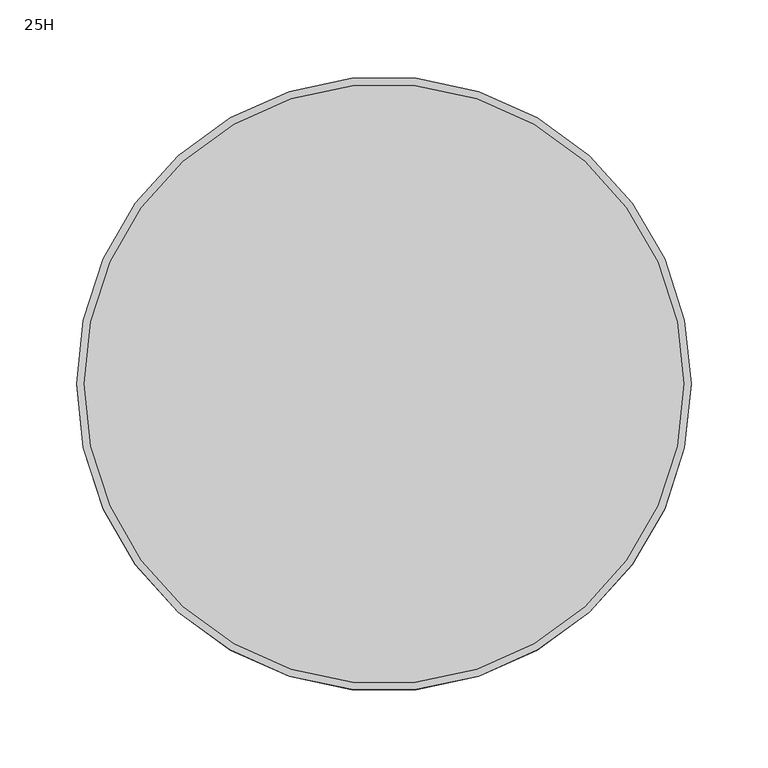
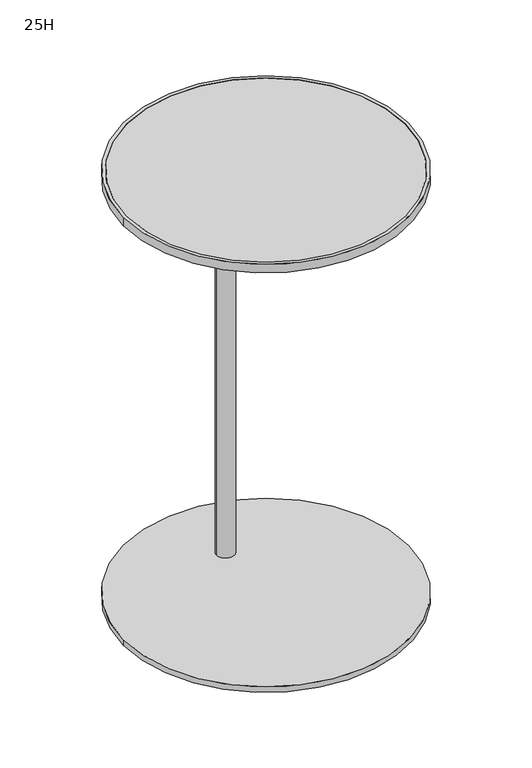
"""IFC4 building model written with IfcOpenShell, lengths in millimetres: furniture geometry, Steelcase Coalesse - Await - Table - Freestanding : 25H."""

from ifc_helpers import new_model, si_unit, point, frame, frame_2d, origin, origin_with_axes, place, context, project, spatial, circle_curve, trimmed, segment, composite_curve, outline, extrude, source, transform, mapped, element, save


def furniture_25h_4a59d33d(model_context):
    return source(origin(), model_context, "Body", "SweptSolid", [
        extrude(outline(composite_curve([segment(trimmed(circle_curve(frame_2d((-416.4141121, 164.7248707)), 200.025), [point((-216.3891121, 164.7248707))], [point((-616.4391121, 164.7248707))], False, "CARTESIAN"), True, "CONTINUOUS"), segment(trimmed(circle_curve(frame_2d((-416.4141121, 164.7248707)), 200.025), [point((-616.4391121, 164.7248707))], [point((-216.3891121, 164.7248707))], False, "CARTESIAN"), True, "CONTINUOUS")], self_intersect=False), holes=[composite_curve([segment(trimmed(circle_curve(frame_2d((-416.4141121, 164.7248707)), 195.2625), [point((-221.1516121, 164.7248707))], [point((-611.6766121, 164.7248707))], True, "CARTESIAN"), True, "CONTINUOUS"), segment(trimmed(circle_curve(frame_2d((-416.4141121, 164.7248707)), 195.2625), [point((-611.6766121, 164.7248707))], [point((-221.1516121, 164.7248707))], True, "CARTESIAN"), True, "CONTINUOUS")], self_intersect=False)]), frame((0.0, 0.0, 622.3), z_axis=(0.0, 0.0, 1.0), x_axis=(1.0, 0.0, 0.0)), (0.0, 0.0, 1.0), 12.7),
        extrude(outline(composite_curve([segment(trimmed(circle_curve(frame_2d((-416.4141121, 164.7248707)), 195.2625), [point((-221.1516121, 164.7248707))], [point((-611.6766121, 164.7248707))], False, "CARTESIAN"), True, "CONTINUOUS"), segment(trimmed(circle_curve(frame_2d((-416.4141121, 164.7248707)), 195.2625), [point((-611.6766121, 164.7248707))], [point((-221.1516121, 164.7248707))], False, "CARTESIAN"), True, "CONTINUOUS")], self_intersect=False)), frame((0.0, 0.0, 622.3), z_axis=(0.0, 0.0, 1.0), x_axis=(1.0, 0.0, 0.0)), (0.0, 0.0, 1.0), 12.7),
        extrude(outline(composite_curve([segment(trimmed(circle_curve(frame_2d((-416.4141121, 164.7248707)), 200.025), [point((-216.3891121, 164.7248707))], [point((-616.4391121, 164.7248707))], False, "CARTESIAN"), True, "CONTINUOUS"), segment(trimmed(circle_curve(frame_2d((-416.4141121, 164.7248707)), 200.025), [point((-616.4391121, 164.7248707))], [point((-216.3891121, 164.7248707))], False, "CARTESIAN"), True, "CONTINUOUS")], self_intersect=False)), origin_with_axes(), (0.0, 0.0, 1.0), 7.9502),
        extrude(outline(composite_curve([segment(trimmed(circle_curve(frame_2d((-416.4141121, 263.1498707)), 12.7), [point((-403.7141121, 263.1498707))], [point((-429.1141121, 263.1498707))], False, "CARTESIAN"), True, "CONTINUOUS"), segment(trimmed(circle_curve(frame_2d((-416.4141121, 263.1498707)), 12.7), [point((-429.1141121, 263.1498707))], [point((-403.7141121, 263.1498707))], False, "CARTESIAN"), True, "CONTINUOUS")], self_intersect=False)), frame((0.0, 0.0, 7.9502), z_axis=(0.0, 0.0, 1.0), x_axis=(1.0, 0.0, 0.0)), (0.0, 0.0, 1.0), 614.3498),
    ])


if __name__ == "__main__":
    model = new_model("IFC4")
    model_context = context("Model", 3, world=origin())
    ifc_project = project(units=[si_unit("LENGTHUNIT", "METRE", prefix="MILLI")], contexts=[model_context])
    site = spatial("IfcSite", under=ifc_project)
    building = spatial("IfcBuilding", under=site)
    placement = place(None, origin())
    furniture_25h_shape = furniture_25h_4a59d33d(model_context)
    element("IfcFurniture", 1, ObjectType="Steelcase Coalesse - Await - Table - Freestanding : 25H", at=placement, inside=building, context=model_context, shape_type="MappedRepresentation", body=[
        mapped(furniture_25h_shape, transform((0.0, 0.0, 0.0), x_axis=(1.0, 0.0, 0.0), y_axis=(0.0, 1.0, 0.0), z_axis=(0.0, 0.0, 1.0))),
    ])
    save(model, "model.ifc")
